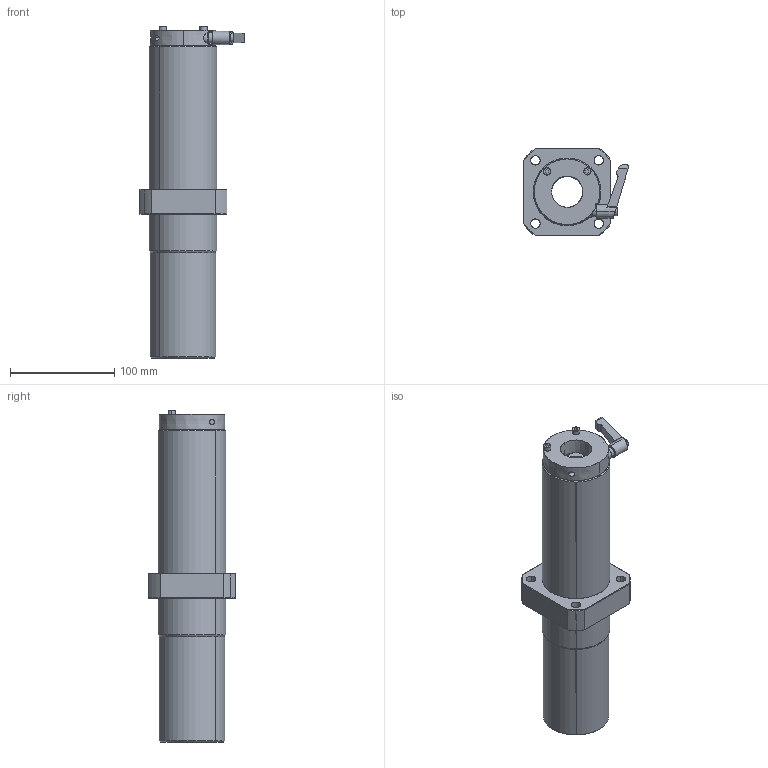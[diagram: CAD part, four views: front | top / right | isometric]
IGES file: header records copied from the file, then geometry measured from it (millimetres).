
Start section: SolidWorks IGES file using analytic representation for surfaces
Global section: file name: C:\Users\yamad\Desktop\IGES\LFWLC30MF-C.IGS; native system: SolidWorks 2019; preprocessor: SolidWorks 2019; author: yamad; date: 230627.104919; units: millimetre
Bounding box: 101.1 x 84 x 319 mm (x, y, z)
Surface area: 128501.9 mm2 (no closed solid volume)
Topology: 0 solids, 0 shells, 240 faces, 5797 edges, 5797 vertices
Faces by surface type: bspline 123, revolution 117
